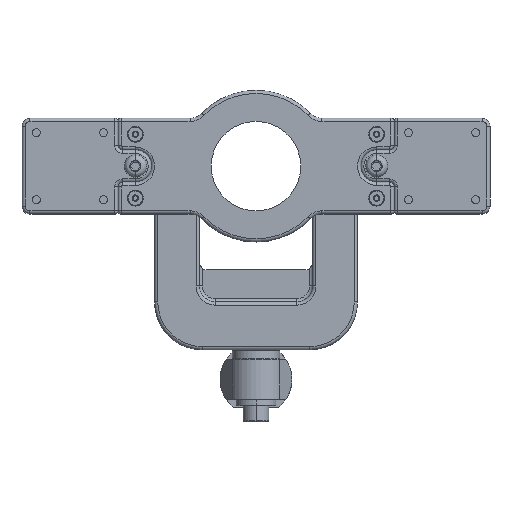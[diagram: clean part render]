
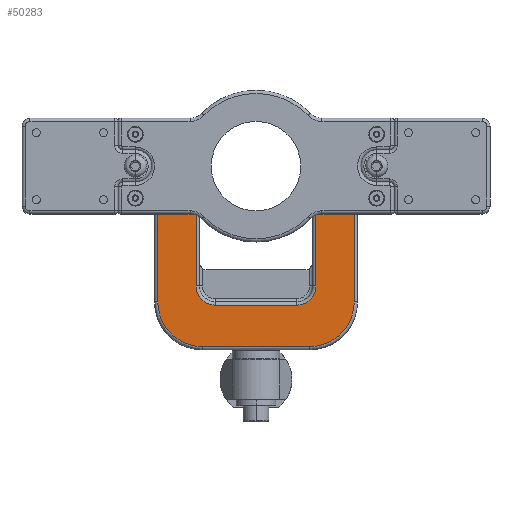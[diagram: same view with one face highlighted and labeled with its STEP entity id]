
A CAD part, front view. The second image highlights one B-rep face of the part: STEP entity #50283.
In plain terms, the highlighted planar face has unit normal (0, -1, 0).
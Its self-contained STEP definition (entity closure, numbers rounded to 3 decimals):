
#928=DIRECTION('',(1.,0.,0.));
#929=VECTOR('',#928,24.);
#930=CARTESIAN_POINT('',(37.5,-25.,-18.));
#931=LINE('',#930,#929);
#936=CARTESIAN_POINT('',(33.5,-25.,-113.5));
#937=DIRECTION('',(0.,-1.,0.));
#938=DIRECTION('',(0.,0.,-1.));
#939=AXIS2_PLACEMENT_3D('',#936,#937,#938);
#941=CARTESIAN_POINT('',(-33.5,-25.,-113.5));
#942=DIRECTION('',(0.,-1.,0.));
#943=DIRECTION('',(-1.,0.,0.));
#944=AXIS2_PLACEMENT_3D('',#941,#942,#943);
#946=CARTESIAN_POINT('',(-25.5,-25.,-103.5));
#947=DIRECTION('',(0.,1.,0.));
#948=DIRECTION('',(0.,0.,-1.));
#949=AXIS2_PLACEMENT_3D('',#946,#947,#948);
#951=CARTESIAN_POINT('',(25.5,-25.,-103.5));
#952=DIRECTION('',(0.,1.,0.));
#953=DIRECTION('',(1.,0.,0.));
#954=AXIS2_PLACEMENT_3D('',#951,#952,#953);
#960=DIRECTION('',(0.,0.,-1.));
#961=VECTOR('',#960,95.5);
#962=CARTESIAN_POINT('',(61.5,-25.,-18.));
#963=LINE('',#962,#961);
#1113=DIRECTION('',(-1.,0.,0.));
#1114=VECTOR('',#1113,67.);
#1115=CARTESIAN_POINT('',(33.5,-25.,-141.5));
#1116=LINE('',#1115,#1114);
#1936=DIRECTION('',(0.,0.,1.));
#1937=VECTOR('',#1936,85.5);
#1938=CARTESIAN_POINT('',(37.5,-25.,-103.5));
#1939=LINE('',#1938,#1937);
#1955=DIRECTION('',(1.,0.,0.));
#1956=VECTOR('',#1955,51.);
#1957=CARTESIAN_POINT('',(-25.5,-25.,-115.5));
#1958=LINE('',#1957,#1956);
#1978=DIRECTION('',(0.,0.,-1.));
#1979=VECTOR('',#1978,85.5);
#1980=CARTESIAN_POINT('',(-37.5,-25.,-18.));
#1981=LINE('',#1980,#1979);
#2006=DIRECTION('',(1.,0.,0.));
#2007=VECTOR('',#2006,24.);
#2008=CARTESIAN_POINT('',(-61.5,-25.,-18.));
#2009=LINE('',#2008,#2007);
#2038=DIRECTION('',(0.,0.,1.));
#2039=VECTOR('',#2038,95.5);
#2040=CARTESIAN_POINT('',(-61.5,-25.,-113.5));
#2041=LINE('',#2040,#2039);
#40880=CARTESIAN_POINT('',(33.5,-25.,-141.5));
#40881=CARTESIAN_POINT('',(-33.5,-25.,-141.5));
#40882=VERTEX_POINT('',#40880);
#40883=VERTEX_POINT('',#40881);
#40952=CARTESIAN_POINT('',(61.5,-25.,-113.5));
#40953=VERTEX_POINT('',#40952);
#40966=CARTESIAN_POINT('',(-61.5,-25.,-113.5));
#40967=VERTEX_POINT('',#40966);
#40984=CARTESIAN_POINT('',(61.5,-25.,-18.));
#40985=VERTEX_POINT('',#40984);
#40998=CARTESIAN_POINT('',(37.5,-25.,-103.5));
#40999=VERTEX_POINT('',#40998);
#41018=CARTESIAN_POINT('',(-37.5,-25.,-18.));
#41019=CARTESIAN_POINT('',(-37.5,-25.,-103.5));
#41020=VERTEX_POINT('',#41018);
#41021=VERTEX_POINT('',#41019);
#41028=CARTESIAN_POINT('',(25.5,-25.,-115.5));
#41029=VERTEX_POINT('',#41028);
#41038=CARTESIAN_POINT('',(-61.5,-25.,-18.));
#41039=VERTEX_POINT('',#41038);
#41056=CARTESIAN_POINT('',(37.5,-25.,-18.));
#41057=VERTEX_POINT('',#41056);
#41058=CARTESIAN_POINT('',(-25.5,-25.,-115.5));
#41059=VERTEX_POINT('',#41058);
#50253=CARTESIAN_POINT('',(33.5,-25.,-113.5));
#50254=DIRECTION('',(0.,1.,0.));
#50255=DIRECTION('',(0.,0.,1.));
#50256=AXIS2_PLACEMENT_3D('',#50253,#50254,#50255);
#50257=PLANE('',#50256);
#50258=ORIENTED_EDGE('',*,*,#50244,.T.);
#50260=ORIENTED_EDGE('',*,*,#50259,.T.);
#50262=ORIENTED_EDGE('',*,*,#50261,.F.);
#50264=ORIENTED_EDGE('',*,*,#50263,.T.);
#50266=ORIENTED_EDGE('',*,*,#50265,.F.);
#50268=ORIENTED_EDGE('',*,*,#50267,.T.);
#50270=ORIENTED_EDGE('',*,*,#50269,.T.);
#50272=ORIENTED_EDGE('',*,*,#50271,.T.);
#50274=ORIENTED_EDGE('',*,*,#50273,.F.);
#50276=ORIENTED_EDGE('',*,*,#50275,.T.);
#50278=ORIENTED_EDGE('',*,*,#50277,.F.);
#50280=ORIENTED_EDGE('',*,*,#50279,.T.);
#50281=EDGE_LOOP('',(#50258,#50260,#50262,#50264,#50266,#50268,#50270,#50272,
#50274,#50276,#50278,#50280));
#50282=FACE_OUTER_BOUND('',#50281,.F.);
#50283=ADVANCED_FACE('',(#50282),#50257,.F.);
#940=CIRCLE('',#939,28.);
#945=CIRCLE('',#944,28.);
#950=CIRCLE('',#949,12.);
#955=CIRCLE('',#954,12.);
#50244=EDGE_CURVE('',#41057,#40985,#931,.T.);
#50259=EDGE_CURVE('',#40985,#40953,#963,.T.);
#50261=EDGE_CURVE('',#40882,#40953,#940,.T.);
#50263=EDGE_CURVE('',#40882,#40883,#1116,.T.);
#50265=EDGE_CURVE('',#40967,#40883,#945,.T.);
#50267=EDGE_CURVE('',#40967,#41039,#2041,.T.);
#50269=EDGE_CURVE('',#41039,#41020,#2009,.T.);
#50271=EDGE_CURVE('',#41020,#41021,#1981,.T.);
#50273=EDGE_CURVE('',#41059,#41021,#950,.T.);
#50275=EDGE_CURVE('',#41059,#41029,#1958,.T.);
#50277=EDGE_CURVE('',#40999,#41029,#955,.T.);
#50279=EDGE_CURVE('',#40999,#41057,#1939,.T.);
